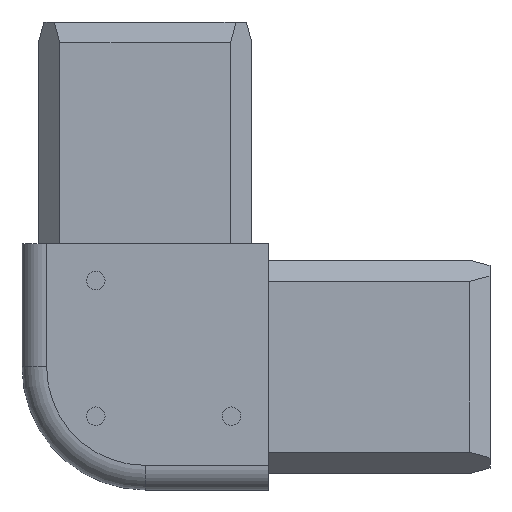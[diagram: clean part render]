
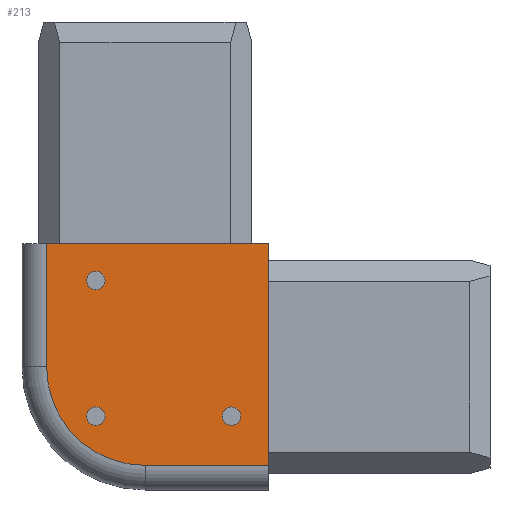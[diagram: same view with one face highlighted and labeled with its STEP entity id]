
A CAD part, left-side view. The second image highlights one B-rep face of the part: STEP entity #213.
In plain terms, the highlighted planar face has unit normal (-1, 0, 0).
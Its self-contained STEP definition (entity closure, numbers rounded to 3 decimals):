
#10 = EDGE_CURVE ( 'NONE', #1152, #787, #1408, .T. ) ;
#31 = EDGE_LOOP ( 'NONE', ( #91 ) ) ;
#69 = DIRECTION ( 'NONE',  ( 0., 1., 0. ) ) ;
#86 = DIRECTION ( 'NONE',  ( 0., 0., -1. ) ) ;
#91 = ORIENTED_EDGE ( 'NONE', *, *, #587, .F. ) ;
#102 = EDGE_CURVE ( 'NONE', #367, #367, #661, .T. ) ;
#112 = AXIS2_PLACEMENT_3D ( 'NONE', #260, #986, #1314 ) ;
#155 = CARTESIAN_POINT ( 'NONE',  ( -15., -10.5, -4.875 ) ) ;
#157 = FACE_BOUND ( 'NONE', #31, .T. ) ;
#205 = VECTOR ( 'NONE', #709, 1000. ) ;
#213 = ADVANCED_FACE ( 'NONE', ( #763, #1373, #785, #157 ), #645, .F. ) ;
#226 = ORIENTED_EDGE ( 'NONE', *, *, #102, .F. ) ;
#234 = DIRECTION ( 'NONE',  ( 0., 1., 0. ) ) ;
#256 = EDGE_LOOP ( 'NONE', ( #446 ) ) ;
#260 = CARTESIAN_POINT ( 'NONE',  ( -15., 6., 10.5 ) ) ;
#311 = AXIS2_PLACEMENT_3D ( 'NONE', #706, #468, #234 ) ;
#345 = CIRCLE ( 'NONE', #1080, 1.125 ) ;
#365 = CIRCLE ( 'NONE', #311, 12. ) ;
#367 = VERTEX_POINT ( 'NONE', #849 ) ;
#368 = DIRECTION ( 'NONE',  ( 0., 0., 1. ) ) ;
#446 = ORIENTED_EDGE ( 'NONE', *, *, #546, .F. ) ;
#467 = CARTESIAN_POINT ( 'NONE',  ( -15., -15., 15. ) ) ;
#468 = DIRECTION ( 'NONE',  ( -1., 0., 0. ) ) ;
#469 = EDGE_LOOP ( 'NONE', ( #226 ) ) ;
#526 = VECTOR ( 'NONE', #1311, 1000. ) ;
#546 = EDGE_CURVE ( 'NONE', #1336, #1336, #1277, .T. ) ;
#587 = EDGE_CURVE ( 'NONE', #972, #972, #345, .T. ) ;
#599 = AXIS2_PLACEMENT_3D ( 'NONE', #1194, #1425, #368 ) ;
#608 = LINE ( 'NONE', #467, #526 ) ;
#621 = VERTEX_POINT ( 'NONE', #1486 ) ;
#645 = PLANE ( 'NONE',  #1189 ) ;
#661 = CIRCLE ( 'NONE', #112, 1.125 ) ;
#671 = VERTEX_POINT ( 'NONE', #1495 ) ;
#687 = CARTESIAN_POINT ( 'NONE',  ( -15., 12., 15. ) ) ;
#695 = VECTOR ( 'NONE', #1514, 1000. ) ;
#700 = VECTOR ( 'NONE', #86, 1000. ) ;
#706 = CARTESIAN_POINT ( 'NONE',  ( -15., 0., 0. ) ) ;
#709 = DIRECTION ( 'NONE',  ( 0., 1., 0. ) ) ;
#729 = EDGE_CURVE ( 'NONE', #671, #621, #1156, .T. ) ;
#740 = CARTESIAN_POINT ( 'NONE',  ( -15., -10.5, -6. ) ) ;
#763 = FACE_BOUND ( 'NONE', #469, .T. ) ;
#785 = FACE_BOUND ( 'NONE', #256, .T. ) ;
#787 = VERTEX_POINT ( 'NONE', #687 ) ;
#805 = EDGE_LOOP ( 'NONE', ( #1482, #1387, #997, #1057, #823 ) ) ;
#823 = ORIENTED_EDGE ( 'NONE', *, *, #1124, .T. ) ;
#849 = CARTESIAN_POINT ( 'NONE',  ( -15., 6., 11.625 ) ) ;
#862 = VERTEX_POINT ( 'NONE', #980 ) ;
#889 = EDGE_CURVE ( 'NONE', #1152, #621, #608, .T. ) ;
#972 = VERTEX_POINT ( 'NONE', #155 ) ;
#980 = CARTESIAN_POINT ( 'NONE',  ( -15., 12., 0. ) ) ;
#982 = DIRECTION ( 'NONE',  ( 0., 0., 1. ) ) ;
#986 = DIRECTION ( 'NONE',  ( -1., 0., 0. ) ) ;
#997 = ORIENTED_EDGE ( 'NONE', *, *, #889, .F. ) ;
#1001 = DIRECTION ( 'NONE',  ( 1., 0., 0. ) ) ;
#1055 = CARTESIAN_POINT ( 'NONE',  ( -15., -42., 15. ) ) ;
#1057 = ORIENTED_EDGE ( 'NONE', *, *, #10, .T. ) ;
#1072 = CARTESIAN_POINT ( 'NONE',  ( -15., -15., 15. ) ) ;
#1080 = AXIS2_PLACEMENT_3D ( 'NONE', #740, #1216, #982 ) ;
#1124 = EDGE_CURVE ( 'NONE', #787, #862, #1493, .T. ) ;
#1152 = VERTEX_POINT ( 'NONE', #1072 ) ;
#1156 = LINE ( 'NONE', #1391, #695 ) ;
#1189 = AXIS2_PLACEMENT_3D ( 'NONE', #1488, #1001, #69 ) ;
#1194 = CARTESIAN_POINT ( 'NONE',  ( -15., 6., -6. ) ) ;
#1196 = CARTESIAN_POINT ( 'NONE',  ( -15., 12., 42. ) ) ;
#1216 = DIRECTION ( 'NONE',  ( -1., 0., 0. ) ) ;
#1277 = CIRCLE ( 'NONE', #599, 1.125 ) ;
#1311 = DIRECTION ( 'NONE',  ( 0., 0., -1. ) ) ;
#1314 = DIRECTION ( 'NONE',  ( 0., 0., 1. ) ) ;
#1336 = VERTEX_POINT ( 'NONE', #1446 ) ;
#1373 = FACE_OUTER_BOUND ( 'NONE', #805, .T. ) ;
#1387 = ORIENTED_EDGE ( 'NONE', *, *, #729, .T. ) ;
#1391 = CARTESIAN_POINT ( 'NONE',  ( -15., 15., -12. ) ) ;
#1408 = LINE ( 'NONE', #1055, #205 ) ;
#1425 = DIRECTION ( 'NONE',  ( -1., 0., 0. ) ) ;
#1440 = EDGE_CURVE ( 'NONE', #862, #671, #365, .T. ) ;
#1446 = CARTESIAN_POINT ( 'NONE',  ( -15., 6., -4.875 ) ) ;
#1482 = ORIENTED_EDGE ( 'NONE', *, *, #1440, .T. ) ;
#1486 = CARTESIAN_POINT ( 'NONE',  ( -15., -15., -12. ) ) ;
#1488 = CARTESIAN_POINT ( 'NONE',  ( -15., 15., 42. ) ) ;
#1493 = LINE ( 'NONE', #1196, #700 ) ;
#1495 = CARTESIAN_POINT ( 'NONE',  ( -15., 0., -12. ) ) ;
#1514 = DIRECTION ( 'NONE',  ( 0., -1., 0. ) ) ;
